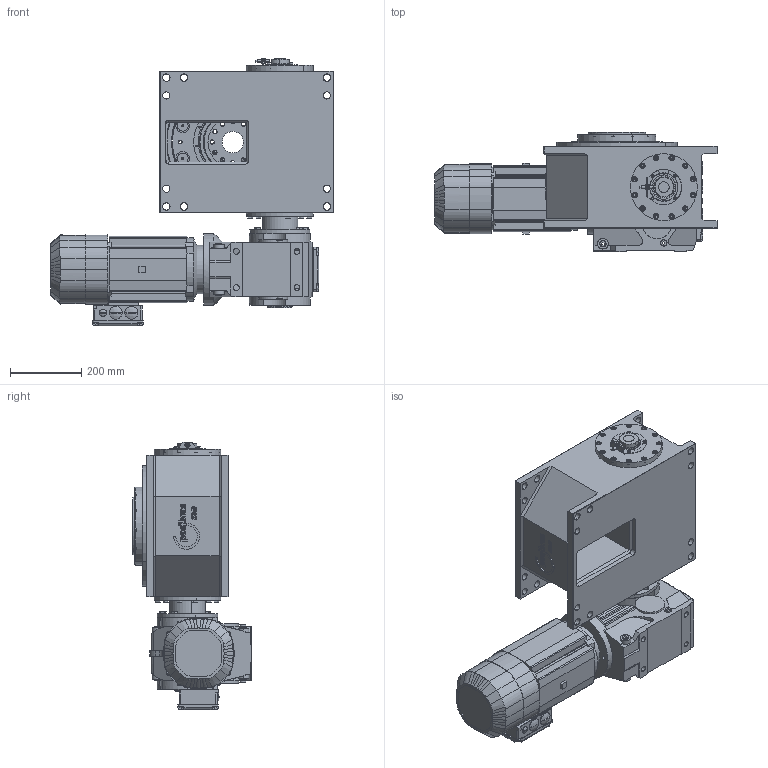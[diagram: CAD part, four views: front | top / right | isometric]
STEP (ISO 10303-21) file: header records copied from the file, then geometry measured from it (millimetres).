
FILE_DESCRIPTION (( 'STEP AP214' ), '1' );
FILE_NAME ('M340_SEW_KA77DRN100L4BE5_D1_10.STEP', '2020-06-17T12:35:33', ( '' ), ( '' ), 'SwSTEP 2.0', 'SolidWorks 2020', '' );
FILE_SCHEMA (( 'AUTOMOTIVE_DESIGN' ));
Length unit declared in the file: millimetre
Products named in the file (1): M340_SEW_KA77DRN100L4BE5_D1_10
Bounding box: 793.5 x 334 x 751.47 mm (x, y, z)
Surface area: 1960823.8 mm2 (no closed solid volume)
Topology: 0 solids, 107 shells, 1810 faces, 5601 edges, 3789 vertices
Faces by surface type: plane 875, cylinder 554, cone 202, torus 92, bspline 81, sphere 6
Entity records: 90511 total; most frequent: CARTESIAN_POINT 21137, DIRECTION 10371, ORIENTED_EDGE 9393, EDGE_CURVE 5573, VERTEX_POINT 3789, AXIS2_PLACEMENT_3D 3646, LINE 3079, VECTOR 3079
